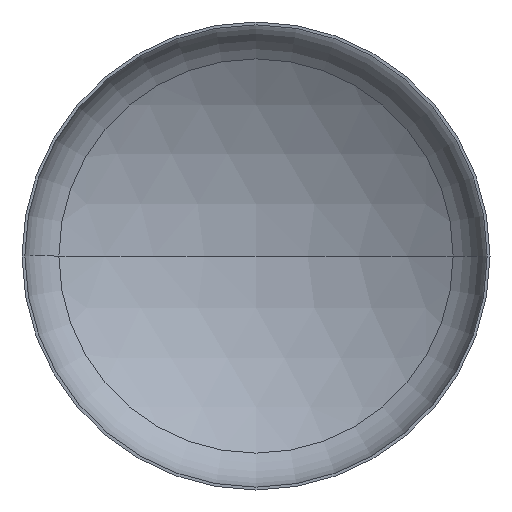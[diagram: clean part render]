
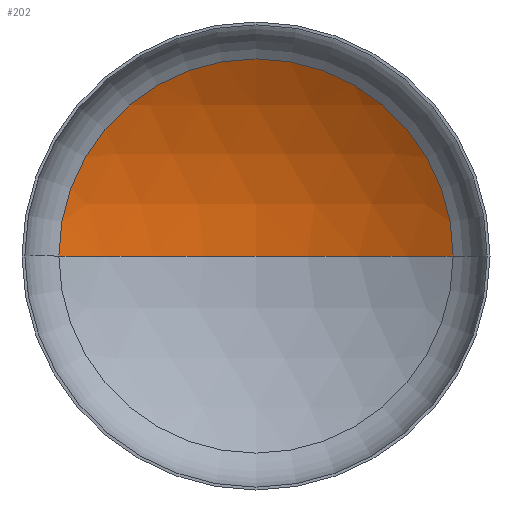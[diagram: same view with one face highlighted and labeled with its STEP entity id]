
A CAD part, front view. The second image highlights one B-rep face of the part: STEP entity #202.
In plain terms, the highlighted spherical face has radius 2240 mm.
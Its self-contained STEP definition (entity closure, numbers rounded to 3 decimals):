
#5 = AXIS2_PLACEMENT_3D ( 'NONE', #264, #36, #285 ) ;
#8 = AXIS2_PLACEMENT_3D ( 'NONE', #198, #199, #175 ) ;
#9 = VERTEX_POINT ( 'NONE', #255 ) ;
#12 = AXIS2_PLACEMENT_3D ( 'NONE', #298, #212, #208 ) ;
#36 = DIRECTION ( 'NONE',  ( 0., 0., 1. ) ) ;
#43 = FACE_OUTER_BOUND ( 'NONE', #45, .T. ) ;
#45 = EDGE_LOOP ( 'NONE', ( #72, #229, #59 ) ) ;
#51 = EDGE_CURVE ( 'NONE', #69, #132, #79, .T. ) ;
#52 = EDGE_CURVE ( 'NONE', #9, #69, #378, .T. ) ;
#54 = EDGE_CURVE ( 'NONE', #9, #132, #317, .T. ) ;
#59 = ORIENTED_EDGE ( 'NONE', *, *, #51, .T. ) ;
#69 = VERTEX_POINT ( 'NONE', #179 ) ;
#72 = ORIENTED_EDGE ( 'NONE', *, *, #54, .F. ) ;
#79 = CIRCLE ( 'NONE', #12, 1179.403 ) ;
#132 = VERTEX_POINT ( 'NONE', #353 ) ;
#161 = AXIS2_PLACEMENT_3D ( 'NONE', #330, #260, #278 ) ;
#175 = DIRECTION ( 'NONE',  ( -1., 0., 0. ) ) ;
#179 = CARTESIAN_POINT ( 'NONE',  ( 1179.403, 420.57, 0. ) ) ;
#198 = CARTESIAN_POINT ( 'NONE',  ( 0., -1483.795, 0. ) ) ;
#199 = DIRECTION ( 'NONE',  ( 0., 0., -1. ) ) ;
#202 = ADVANCED_FACE ( 'NONE', ( #43 ), #258, .F. ) ;
#208 = DIRECTION ( 'NONE',  ( 1., 0., 0. ) ) ;
#212 = DIRECTION ( 'NONE',  ( 0., -1., 0. ) ) ;
#229 = ORIENTED_EDGE ( 'NONE', *, *, #52, .T. ) ;
#255 = CARTESIAN_POINT ( 'NONE',  ( 0., 756.205, 0. ) ) ;
#258 = SPHERICAL_SURFACE ( 'NONE', #161, 2240. ) ;
#260 = DIRECTION ( 'NONE',  ( 0., 0., -1. ) ) ;
#264 = CARTESIAN_POINT ( 'NONE',  ( 0., -1483.795, 0. ) ) ;
#278 = DIRECTION ( 'NONE',  ( -1., 0., 0. ) ) ;
#285 = DIRECTION ( 'NONE',  ( 1., 0., 0. ) ) ;
#298 = CARTESIAN_POINT ( 'NONE',  ( 0., 420.57, 0. ) ) ;
#317 = CIRCLE ( 'NONE', #5, 2240. ) ;
#330 = CARTESIAN_POINT ( 'NONE',  ( 0., -1483.795, 0. ) ) ;
#353 = CARTESIAN_POINT ( 'NONE',  ( -1179.403, 420.57, 0. ) ) ;
#378 = CIRCLE ( 'NONE', #8, 2240. ) ;
